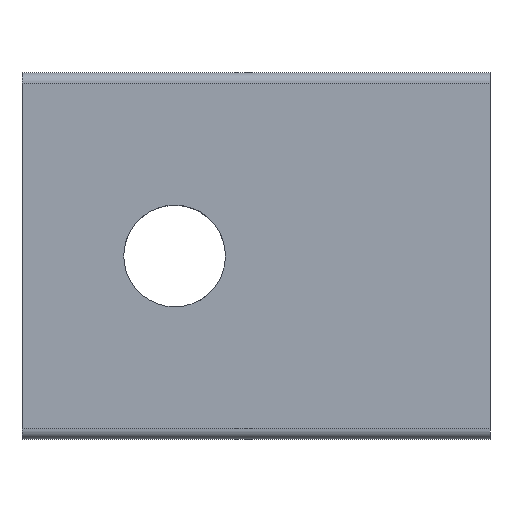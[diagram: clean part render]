
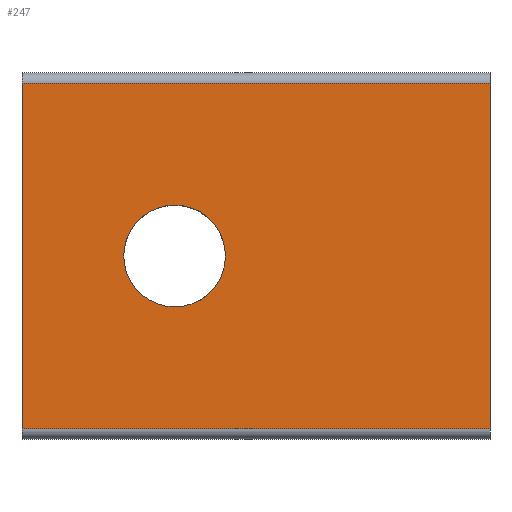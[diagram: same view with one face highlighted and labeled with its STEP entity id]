
A CAD part, top view. The second image highlights one B-rep face of the part: STEP entity #247.
In plain terms, the highlighted planar face has unit normal (0, 0, 1).
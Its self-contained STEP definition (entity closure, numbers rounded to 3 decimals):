
#28 = VECTOR ( 'NONE', #216, 1000. ) ;
#30 = VERTEX_POINT ( 'NONE', #516 ) ;
#43 = CARTESIAN_POINT ( 'NONE',  ( 0., 0., 0. ) ) ;
#80 = CIRCLE ( 'NONE', #177, 2.5 ) ;
#100 = PLANE ( 'NONE',  #614 ) ;
#110 = ORIENTED_EDGE ( 'NONE', *, *, #528, .F. ) ;
#117 = AXIS2_PLACEMENT_3D ( 'NONE', #43, #713, #148 ) ;
#138 = ORIENTED_EDGE ( 'NONE', *, *, #651, .F. ) ;
#148 = DIRECTION ( 'NONE',  ( 1., 0., 0. ) ) ;
#177 = AXIS2_PLACEMENT_3D ( 'NONE', #219, #610, #209 ) ;
#197 = VERTEX_POINT ( 'NONE', #433 ) ;
#201 = VECTOR ( 'NONE', #452, 1000. ) ;
#202 = CARTESIAN_POINT ( 'NONE',  ( -7.5, 8.5, 0. ) ) ;
#209 = DIRECTION ( 'NONE',  ( 1., 0., 0. ) ) ;
#214 = FACE_OUTER_BOUND ( 'NONE', #325, .T. ) ;
#216 = DIRECTION ( 'NONE',  ( 0., -1., 0. ) ) ;
#219 = CARTESIAN_POINT ( 'NONE',  ( 0., 0., 0. ) ) ;
#229 = LINE ( 'NONE', #399, #201 ) ;
#239 = VECTOR ( 'NONE', #625, 1000. ) ;
#247 = ADVANCED_FACE ( 'NONE', ( #373, #214 ), #100, .F. ) ;
#259 = ORIENTED_EDGE ( 'NONE', *, *, #600, .T. ) ;
#294 = LINE ( 'NONE', #352, #636 ) ;
#310 = VERTEX_POINT ( 'NONE', #665 ) ;
#325 = EDGE_LOOP ( 'NONE', ( #612, #549, #138, #259 ) ) ;
#326 = DIRECTION ( 'NONE',  ( -1., 0., 0. ) ) ;
#352 = CARTESIAN_POINT ( 'NONE',  ( 15.5, -8.5, 0. ) ) ;
#373 = FACE_BOUND ( 'NONE', #692, .T. ) ;
#396 = EDGE_CURVE ( 'NONE', #30, #431, #294, .T. ) ;
#399 = CARTESIAN_POINT ( 'NONE',  ( 15.5, 8.5, 0. ) ) ;
#409 = CARTESIAN_POINT ( 'NONE',  ( -7.5, -8.5, 0. ) ) ;
#431 = VERTEX_POINT ( 'NONE', #409 ) ;
#433 = CARTESIAN_POINT ( 'NONE',  ( -2.5, 0., 0. ) ) ;
#438 = DIRECTION ( 'NONE',  ( 0., 0., -1. ) ) ;
#439 = LINE ( 'NONE', #202, #28 ) ;
#440 = EDGE_CURVE ( 'NONE', #531, #431, #439, .T. ) ;
#452 = DIRECTION ( 'NONE',  ( -1., 0., 0. ) ) ;
#488 = CARTESIAN_POINT ( 'NONE',  ( -7.5, 8.5, 0. ) ) ;
#516 = CARTESIAN_POINT ( 'NONE',  ( 15.5, -8.5, 0. ) ) ;
#518 = DIRECTION ( 'NONE',  ( -1., 0., 0. ) ) ;
#519 = LINE ( 'NONE', #670, #239 ) ;
#528 = EDGE_CURVE ( 'NONE', #197, #658, #640, .T. ) ;
#531 = VERTEX_POINT ( 'NONE', #488 ) ;
#549 = ORIENTED_EDGE ( 'NONE', *, *, #396, .F. ) ;
#563 = EDGE_CURVE ( 'NONE', #658, #197, #80, .T. ) ;
#597 = CARTESIAN_POINT ( 'NONE',  ( 15.5, 8.5, 0. ) ) ;
#600 = EDGE_CURVE ( 'NONE', #310, #531, #229, .T. ) ;
#610 = DIRECTION ( 'NONE',  ( 0., 0., 1. ) ) ;
#612 = ORIENTED_EDGE ( 'NONE', *, *, #440, .T. ) ;
#614 = AXIS2_PLACEMENT_3D ( 'NONE', #597, #438, #326 ) ;
#615 = CARTESIAN_POINT ( 'NONE',  ( 2.5, 0., 0. ) ) ;
#616 = ORIENTED_EDGE ( 'NONE', *, *, #563, .F. ) ;
#625 = DIRECTION ( 'NONE',  ( 0., -1., 0. ) ) ;
#636 = VECTOR ( 'NONE', #518, 1000. ) ;
#640 = CIRCLE ( 'NONE', #117, 2.5 ) ;
#651 = EDGE_CURVE ( 'NONE', #310, #30, #519, .T. ) ;
#658 = VERTEX_POINT ( 'NONE', #615 ) ;
#665 = CARTESIAN_POINT ( 'NONE',  ( 15.5, 8.5, 0. ) ) ;
#670 = CARTESIAN_POINT ( 'NONE',  ( 15.5, 8.5, 0. ) ) ;
#692 = EDGE_LOOP ( 'NONE', ( #616, #110 ) ) ;
#713 = DIRECTION ( 'NONE',  ( 0., 0., 1. ) ) ;
